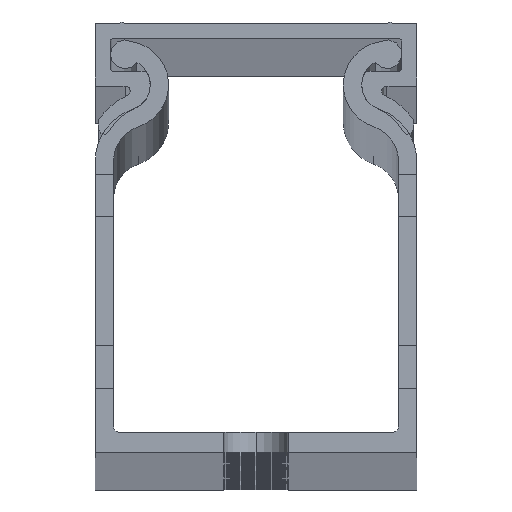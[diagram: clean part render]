
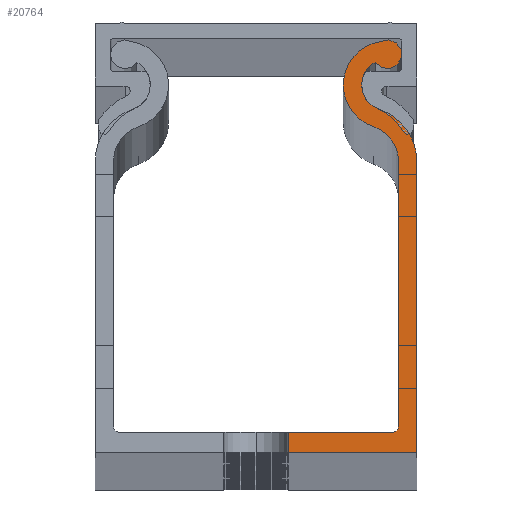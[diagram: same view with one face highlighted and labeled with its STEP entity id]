
A CAD part, top view. The second image highlights one B-rep face of the part: STEP entity #20764.
In plain terms, the highlighted planar face has unit normal (0, 0, 1).
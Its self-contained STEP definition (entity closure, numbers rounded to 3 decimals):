
#1139 = VERTEX_POINT ( 'NONE', #17990 ) ;
#1742 = CARTESIAN_POINT ( 'NONE',  ( 2571.407, 1258.956, 2000. ) ) ;
#1750 = CARTESIAN_POINT ( 'NONE',  ( 2580.655, 1291.356, 2000. ) ) ;
#1923 = DIRECTION ( 'NONE',  ( 0., 0., -1. ) ) ;
#1936 = DIRECTION ( 'NONE',  ( 1., 0., 0. ) ) ;
#2032 = VERTEX_POINT ( 'NONE', #10969 ) ;
#2249 = CARTESIAN_POINT ( 'NONE',  ( 2581.207, 1258.956, 2000. ) ) ;
#2471 = VERTEX_POINT ( 'NONE', #33750 ) ;
#3001 = VERTEX_POINT ( 'NONE', #14088 ) ;
#3139 = VERTEX_POINT ( 'NONE', #50910 ) ;
#3763 = AXIS2_PLACEMENT_3D ( 'NONE', #22725, #46693, #51513 ) ;
#4932 = DIRECTION ( 'NONE',  ( 0., 1., 0. ) ) ;
#5100 = AXIS2_PLACEMENT_3D ( 'NONE', #43888, #51269, #14938 ) ;
#5124 = CARTESIAN_POINT ( 'NONE',  ( 2583.407, 1257.056, 2000. ) ) ;
#5408 = CARTESIAN_POINT ( 'NONE',  ( 2583.407, 1257.056, 2000. ) ) ;
#5823 = DIRECTION ( 'NONE',  ( 1., 0., 0. ) ) ;
#6430 = EDGE_CURVE ( 'NONE', #42810, #3001, #31445, .T. ) ;
#6991 = ORIENTED_EDGE ( 'NONE', *, *, #33301, .T. ) ;
#7021 = VECTOR ( 'NONE', #4932, 1000. ) ;
#7512 = CIRCLE ( 'NONE', #51794, 2.4 ) ;
#9833 = CIRCLE ( 'NONE', #35302, 2.4 ) ;
#10004 = DIRECTION ( 'NONE',  ( 1., 0., 0. ) ) ;
#10969 = CARTESIAN_POINT ( 'NONE',  ( 2580.029, 1295.408, 2000. ) ) ;
#11612 = EDGE_CURVE ( 'NONE', #3139, #15090, #37062, .T. ) ;
#11738 = DIRECTION ( 'NONE',  ( 1., 0., 0. ) ) ;
#12417 = AXIS2_PLACEMENT_3D ( 'NONE', #49132, #24495, #28638 ) ;
#13100 = CARTESIAN_POINT ( 'NONE',  ( 2568.407, 1258.956, 2000. ) ) ;
#13281 = ORIENTED_EDGE ( 'NONE', *, *, #46441, .T. ) ;
#13594 = LINE ( 'NONE', #30474, #29018 ) ;
#14088 = CARTESIAN_POINT ( 'NONE',  ( 2583.407, 1284.196, 2000. ) ) ;
#14431 = VERTEX_POINT ( 'NONE', #14780 ) ;
#14780 = CARTESIAN_POINT ( 'NONE',  ( 2579.372, 1287.462, 2000. ) ) ;
#14938 = DIRECTION ( 'NONE',  ( 1., 0., 0. ) ) ;
#15061 = LINE ( 'NONE', #22348, #25969 ) ;
#15090 = VERTEX_POINT ( 'NONE', #1742 ) ;
#15278 = ORIENTED_EDGE ( 'NONE', *, *, #22468, .T. ) ;
#15308 = ORIENTED_EDGE ( 'NONE', *, *, #31455, .T. ) ;
#15317 = VERTEX_POINT ( 'NONE', #2249 ) ;
#15547 = DIRECTION ( 'NONE',  ( 1., 0., 0. ) ) ;
#16119 = CIRCLE ( 'NONE', #3763, 4.1 ) ;
#16485 = CIRCLE ( 'NONE', #12417, 3.4 ) ;
#17052 = DIRECTION ( 'NONE',  ( 1., 0., 0. ) ) ;
#17990 = CARTESIAN_POINT ( 'NONE',  ( 2576.555, 1291.356, 2000. ) ) ;
#18045 = EDGE_CURVE ( 'NONE', #36668, #37122, #7512, .T. ) ;
#18449 = DIRECTION ( 'NONE',  ( 0., 0., 1. ) ) ;
#19248 = EDGE_CURVE ( 'NONE', #3139, #42810, #15061, .T. ) ;
#19605 = ORIENTED_EDGE ( 'NONE', *, *, #18045, .T. ) ;
#20221 = CARTESIAN_POINT ( 'NONE',  ( 2580.655, 1291.356, 2000. ) ) ;
#20384 = CARTESIAN_POINT ( 'NONE',  ( 2580.657, 1294.213, 2000. ) ) ;
#20764 = ADVANCED_FACE ( 'NONE', ( #46497 ), #29949, .T. ) ;
#21362 = ORIENTED_EDGE ( 'NONE', *, *, #19248, .T. ) ;
#22088 = CIRCLE ( 'NONE', #25102, 5.1 ) ;
#22212 = EDGE_CURVE ( 'NONE', #3001, #36668, #22088, .T. ) ;
#22348 = CARTESIAN_POINT ( 'NONE',  ( 2568.407, 1257.056, 2000. ) ) ;
#22468 = EDGE_CURVE ( 'NONE', #1139, #14431, #43927, .T. ) ;
#22725 = CARTESIAN_POINT ( 'NONE',  ( 2580.655, 1291.356, 2000. ) ) ;
#22903 = CARTESIAN_POINT ( 'NONE',  ( 2558.507, 1284.233, 2000. ) ) ;
#22918 = DIRECTION ( 'NONE',  ( 1., 0., 0. ) ) ;
#24495 = DIRECTION ( 'NONE',  ( 0., 0., -1. ) ) ;
#25102 = AXIS2_PLACEMENT_3D ( 'NONE', #26495, #18449, #1936 ) ;
#25440 = CARTESIAN_POINT ( 'NONE',  ( 2578.255, 1291.356, 2000. ) ) ;
#25969 = VECTOR ( 'NONE', #5823, 1000. ) ;
#26087 = VECTOR ( 'NONE', #29744, 1000. ) ;
#26495 = CARTESIAN_POINT ( 'NONE',  ( 2578.307, 1284.233, 2000. ) ) ;
#28465 = ORIENTED_EDGE ( 'NONE', *, *, #36514, .T. ) ;
#28638 = DIRECTION ( 'NONE',  ( 1., 0., 0. ) ) ;
#29018 = VECTOR ( 'NONE', #30315, 1000. ) ;
#29744 = DIRECTION ( 'NONE',  ( 0., 1., 0. ) ) ;
#29949 = PLANE ( 'NONE',  #51881 ) ;
#30315 = DIRECTION ( 'NONE',  ( 0., -1., 0. ) ) ;
#30474 = CARTESIAN_POINT ( 'NONE',  ( 2581.707, 1284.203, 2000. ) ) ;
#30852 = CARTESIAN_POINT ( 'NONE',  ( 2579.904, 1289.077, 2000. ) ) ;
#31445 = LINE ( 'NONE', #5124, #7021 ) ;
#31455 = EDGE_CURVE ( 'NONE', #44424, #2032, #46317, .T. ) ;
#32241 = DIRECTION ( 'NONE',  ( 0., 0., 1. ) ) ;
#33256 = CARTESIAN_POINT ( 'NONE',  ( 2580.655, 1291.356, 2000. ) ) ;
#33301 = EDGE_CURVE ( 'NONE', #14431, #52725, #16485, .T. ) ;
#33338 = CARTESIAN_POINT ( 'NONE',  ( 2579.527, 1293.474, 2000. ) ) ;
#33750 = CARTESIAN_POINT ( 'NONE',  ( 2581.707, 1259.456, 2000. ) ) ;
#33883 = ORIENTED_EDGE ( 'NONE', *, *, #47525, .T. ) ;
#34061 = CARTESIAN_POINT ( 'NONE',  ( 2571.407, 1284.233, 2000. ) ) ;
#35302 = AXIS2_PLACEMENT_3D ( 'NONE', #1750, #1923, #22918 ) ;
#36514 = EDGE_CURVE ( 'NONE', #52725, #2471, #13594, .T. ) ;
#36668 = VERTEX_POINT ( 'NONE', #30852 ) ;
#37062 = LINE ( 'NONE', #34061, #26087 ) ;
#37122 = VERTEX_POINT ( 'NONE', #25440 ) ;
#38094 = CIRCLE ( 'NONE', #5100, 0.5 ) ;
#38788 = ORIENTED_EDGE ( 'NONE', *, *, #22212, .T. ) ;
#38880 = ORIENTED_EDGE ( 'NONE', *, *, #11612, .F. ) ;
#39625 = VECTOR ( 'NONE', #41888, 1000. ) ;
#39957 = AXIS2_PLACEMENT_3D ( 'NONE', #20384, #32241, #11738 ) ;
#41699 = DIRECTION ( 'NONE',  ( 0., 0., -1. ) ) ;
#41888 = DIRECTION ( 'NONE',  ( -1., 0., 0. ) ) ;
#42157 = EDGE_LOOP ( 'NONE', ( #38880, #21362, #53038, #38788, #19605, #42990, #15308, #33883, #15278, #6991, #28465, #13281, #43020 ) ) ;
#42810 = VERTEX_POINT ( 'NONE', #5408 ) ;
#42886 = DIRECTION ( 'NONE',  ( 0., 0., 1. ) ) ;
#42990 = ORIENTED_EDGE ( 'NONE', *, *, #45801, .T. ) ;
#43020 = ORIENTED_EDGE ( 'NONE', *, *, #50029, .T. ) ;
#43888 = CARTESIAN_POINT ( 'NONE',  ( 2581.207, 1259.456, 2000. ) ) ;
#43927 = CIRCLE ( 'NONE', #49212, 4.1 ) ;
#44424 = VERTEX_POINT ( 'NONE', #33338 ) ;
#45394 = LINE ( 'NONE', #13100, #39625 ) ;
#45801 = EDGE_CURVE ( 'NONE', #37122, #44424, #9833, .T. ) ;
#46317 = CIRCLE ( 'NONE', #39957, 1.35 ) ;
#46441 = EDGE_CURVE ( 'NONE', #2471, #15317, #38094, .T. ) ;
#46497 = FACE_OUTER_BOUND ( 'NONE', #42157, .T. ) ;
#46693 = DIRECTION ( 'NONE',  ( 0., 0., 1. ) ) ;
#47525 = EDGE_CURVE ( 'NONE', #2032, #1139, #16119, .T. ) ;
#48819 = DIRECTION ( 'NONE',  ( 0., 0., 1. ) ) ;
#49132 = CARTESIAN_POINT ( 'NONE',  ( 2578.307, 1284.233, 2000. ) ) ;
#49212 = AXIS2_PLACEMENT_3D ( 'NONE', #20221, #48819, #15547 ) ;
#50029 = EDGE_CURVE ( 'NONE', #15317, #15090, #45394, .T. ) ;
#50910 = CARTESIAN_POINT ( 'NONE',  ( 2571.407, 1257.056, 2000. ) ) ;
#51269 = DIRECTION ( 'NONE',  ( 0., 0., -1. ) ) ;
#51513 = DIRECTION ( 'NONE',  ( 1., 0., 0. ) ) ;
#51794 = AXIS2_PLACEMENT_3D ( 'NONE', #33256, #41699, #17052 ) ;
#51881 = AXIS2_PLACEMENT_3D ( 'NONE', #22903, #42886, #10004 ) ;
#52725 = VERTEX_POINT ( 'NONE', #53167 ) ;
#53038 = ORIENTED_EDGE ( 'NONE', *, *, #6430, .T. ) ;
#53167 = CARTESIAN_POINT ( 'NONE',  ( 2581.707, 1284.203, 2000. ) ) ;
